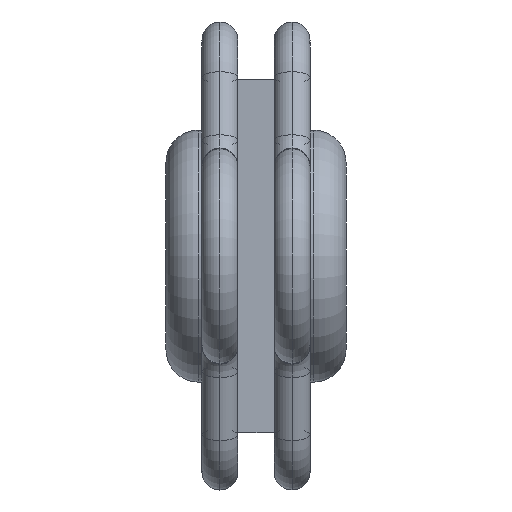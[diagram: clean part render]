
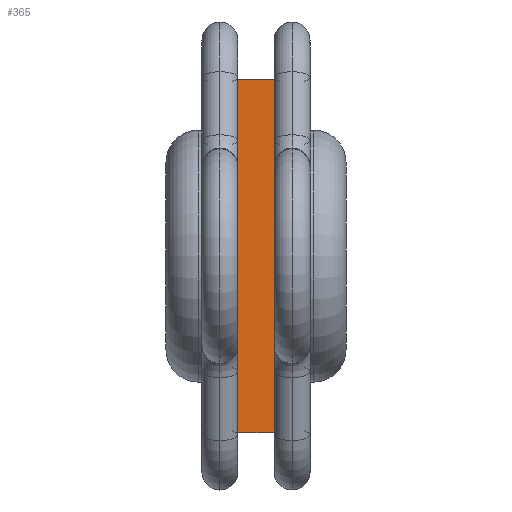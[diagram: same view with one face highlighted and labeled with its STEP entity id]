
A CAD part, left-side view. The second image highlights one B-rep face of the part: STEP entity #365.
In plain terms, the highlighted planar face has unit normal (-1, 0, 0).
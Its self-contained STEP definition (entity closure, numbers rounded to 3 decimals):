
#9 = CARTESIAN_POINT ( 'NONE',  ( -200., 0.5, 4.9 ) ) ;
#68 = FACE_OUTER_BOUND ( 'NONE', #1323, .T. ) ;
#98 = ORIENTED_EDGE ( 'NONE', *, *, #1041, .T. ) ;
#139 = DIRECTION ( 'NONE',  ( -1., 0., 0. ) ) ;
#162 = CARTESIAN_POINT ( 'NONE',  ( -200., 0.5, -4.9 ) ) ;
#196 = ORIENTED_EDGE ( 'NONE', *, *, #309, .F. ) ;
#251 = VERTEX_POINT ( 'NONE', #782 ) ;
#309 = EDGE_CURVE ( 'NONE', #251, #1811, #1482, .T. ) ;
#365 = ADVANCED_FACE ( 'NONE', ( #68 ), #441, .T. ) ;
#441 = PLANE ( 'NONE',  #1959 ) ;
#457 = CARTESIAN_POINT ( 'NONE',  ( -200., -0.5, -4.9 ) ) ;
#477 = CARTESIAN_POINT ( 'NONE',  ( -200., -0.5, -4.9 ) ) ;
#596 = CARTESIAN_POINT ( 'NONE',  ( -200., -0.5, 4.9 ) ) ;
#600 = VECTOR ( 'NONE', #1145, 1000. ) ;
#601 = CARTESIAN_POINT ( 'NONE',  ( -200., 0.5, -4.9 ) ) ;
#688 = ORIENTED_EDGE ( 'NONE', *, *, #873, .F. ) ;
#742 = VERTEX_POINT ( 'NONE', #9 ) ;
#782 = CARTESIAN_POINT ( 'NONE',  ( -200., -0.5, -4.9 ) ) ;
#873 = EDGE_CURVE ( 'NONE', #1811, #742, #1512, .T. ) ;
#892 = LINE ( 'NONE', #2148, #2146 ) ;
#1031 = VECTOR ( 'NONE', #1640, 1000. ) ;
#1041 = EDGE_CURVE ( 'NONE', #1108, #742, #892, .T. ) ;
#1061 = ORIENTED_EDGE ( 'NONE', *, *, #1558, .T. ) ;
#1108 = VERTEX_POINT ( 'NONE', #596 ) ;
#1145 = DIRECTION ( 'NONE',  ( 0., 0., 1. ) ) ;
#1323 = EDGE_LOOP ( 'NONE', ( #98, #688, #196, #1061 ) ) ;
#1388 = LINE ( 'NONE', #1995, #1842 ) ;
#1482 = LINE ( 'NONE', #457, #1031 ) ;
#1512 = LINE ( 'NONE', #601, #600 ) ;
#1558 = EDGE_CURVE ( 'NONE', #251, #1108, #1388, .T. ) ;
#1629 = DIRECTION ( 'NONE',  ( 0., 1., 0. ) ) ;
#1640 = DIRECTION ( 'NONE',  ( 0., 1., 0. ) ) ;
#1811 = VERTEX_POINT ( 'NONE', #162 ) ;
#1842 = VECTOR ( 'NONE', #2187, 1000. ) ;
#1941 = DIRECTION ( 'NONE',  ( 0., 0., 1. ) ) ;
#1959 = AXIS2_PLACEMENT_3D ( 'NONE', #477, #139, #1941 ) ;
#1995 = CARTESIAN_POINT ( 'NONE',  ( -200., -0.5, -4.9 ) ) ;
#2146 = VECTOR ( 'NONE', #1629, 1000. ) ;
#2148 = CARTESIAN_POINT ( 'NONE',  ( -200., -0.5, 4.9 ) ) ;
#2187 = DIRECTION ( 'NONE',  ( 0., 0., 1. ) ) ;
